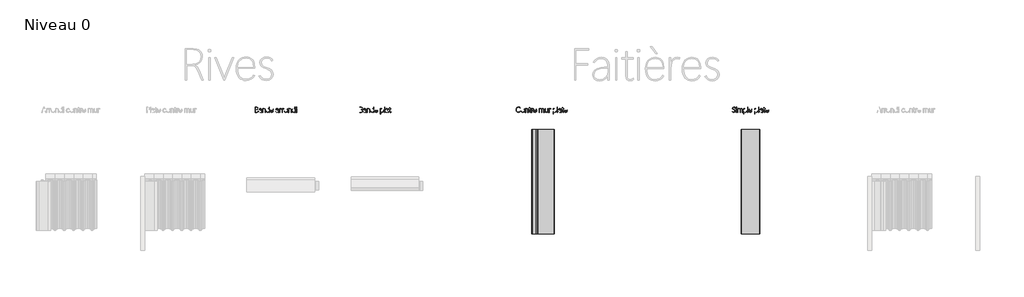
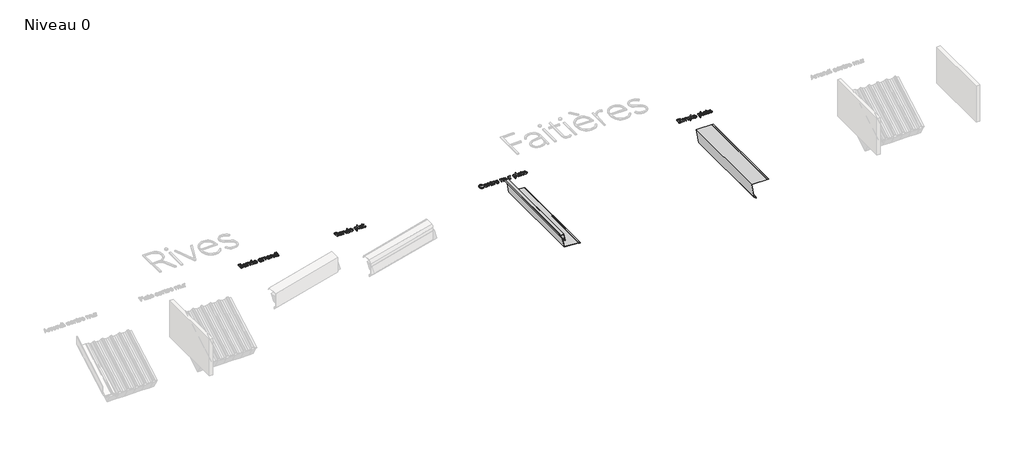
# One storey, part 13 of 26: 6 proxies.
"""IFC4 building model written with IfcOpenShell, lengths in millimetres."""

from ifc_helpers import new_model, si_unit, origin, origin_with_axes, place, context, project, spatial, polyline, outline, extrude, transform, mapped, element, save
from components import generic_models_2b05da81, generic_models_b33f6de4

model = new_model("IFC4")

# Units and contexts
model_context = context("Model", 3, world=origin())
ifc_project = project(units=[si_unit("LENGTHUNIT", "METRE", prefix="MILLI")], contexts=[model_context])

# Site, building, storey
site = spatial("IfcSite", under=ifc_project)
building = spatial("IfcBuilding", under=site)
storey = spatial("IfcBuildingStorey", under=building, Name="Niveau 0", Elevation=0.0)

# Proxies
placement = place(None, origin())
generic_models_shape = generic_models_2b05da81(model_context)
element("IfcBuildingElementProxy", 1, Name="Faitiere simple plate : Faitiere simple plate", ObjectType="Faitiere simple plate : Faitiere simple plate", at=placement, inside=storey, context=model_context, shape_type="MappedRepresentation", body=[
    mapped(generic_models_shape, transform((-2035.3118355, -8404.4337097, 0.0), x_axis=(0.0, -1.0, 0.0), y_axis=(1.0, 0.0, 0.0), z_axis=(0.0, 0.0, 1.0))),
])
generic_models_2_shape = generic_models_b33f6de4(model_context)
element("IfcBuildingElementProxy", 2, Name="Faitiere contre mur plate : Faitiere contre mur plate", ObjectType="Faitiere contre mur plate : Faitiere contre mur plate", at=placement, inside=storey, context=model_context, shape_type="MappedRepresentation", body=[
    mapped(generic_models_2_shape, transform((-3993.416243, -8404.4337097, 0.0), x_axis=(0.0, -1.0, 0.0), y_axis=(1.0, 0.0, 0.0), z_axis=(0.0, 0.0, 1.0))),
])
element("IfcBuildingElementProxy", 3, Name="0.5mm", ObjectType="0.5mm", at=placement, inside=storey, context=model_context, shape_type="SweptSolid", body=[
    extrude(outline(polyline([(-2130.3766746, -8231.5532262), (-2128.3087259, -8230.4076719), (-2123.4140847, -8236.1056888), (-2116.3919855, -8237.9356002), (-2107.9565401, -8234.9006251), (-2104.6091411, -8226.747849), (-2107.0787777, -8219.212482), (-2115.4100818, -8214.4294208), (-2125.1398548, -8209.0587051), (-2128.1748299, -8201.0844568), (-2124.515007, -8192.0316023), (-2114.9637619, -8188.4238501), (-2107.2647443, -8190.5141148), (-2102.4072965, -8195.9220238), (-2104.4603678, -8197.0378234), (-2108.5962652, -8192.3217102), (-2114.9935166, -8190.5810627), (-2122.6776569, -8193.3556846), (-2125.8688439, -8200.8761742), (-2123.2727501, -8207.6007269), (-2114.7554793, -8212.2424534), (-2105.144725, -8217.8512064), (-2102.2734005, -8226.5395664), (-2106.2605246, -8236.3139714), (-2116.3919855, -8240.0928129), (-2124.6860963, -8237.8984069), (-2130.3766746, -8231.5532262)])), origin_with_axes(), (0.0, 0.0, 1.0), 10.0),
    extrude(outline(polyline([(-2091.4873371, -8194.8359788), (-2093.131282, -8194.211131), (-2093.7933231, -8192.5746248), (-2093.131282, -8190.93068), (-2091.4873371, -8190.2983935), (-2089.806199, -8190.93068), (-2089.1962285, -8192.5746248), (-2089.806199, -8194.211131), (-2091.4873371, -8194.8359788)])), origin_with_axes(), (0.0, 0.0, 1.0), 10.0),
    extrude(outline(polyline([(-2090.3715375, -8239.2596825), (-2092.5436275, -8239.2596825), (-2092.5436275, -8203.5540934), (-2090.3715375, -8203.5540934), (-2090.3715375, -8239.2596825)])), origin_with_axes(), (0.0, 0.0, 1.0), 10.0),
    extrude(outline(polyline([(-2031.3978062, -8239.2596825), (-2033.5252642, -8239.2596825), (-2033.5252642, -8217.018076), (-2036.0023395, -8207.7420615), (-2042.8682267, -8204.7442797), (-2050.552367, -8208.262768), (-2053.6394127, -8217.2263586), (-2053.6394127, -8239.2596825), (-2055.7966254, -8239.2596825), (-2055.7966254, -8216.839548), (-2058.0802954, -8207.9131508), (-2064.871796, -8204.7442797), (-2072.8386055, -8208.1214334), (-2075.9256513, -8216.973444), (-2075.9256513, -8239.2596825), (-2078.0828639, -8239.2596825), (-2078.0828639, -8203.5540934), (-2075.9256513, -8203.5540934), (-2075.9256513, -8209.371129), (-2071.1946607, -8204.3723465), (-2064.693268, -8202.676331), (-2057.8422581, -8205.0120716), (-2054.3684019, -8211.2307951), (-2049.7713073, -8204.9302463), (-2042.8384721, -8202.676331), (-2034.3435173, -8206.2915219), (-2031.3978062, -8216.839548), (-2031.3978062, -8239.2596825)])), origin_with_axes(), (0.0, 0.0, 1.0), 10.0),
    extrude(outline(polyline([(-2018.6925675, -8233.1897323), (-2018.7967088, -8255.6842534), (-2020.9539214, -8255.6842534), (-2020.9539214, -8203.5540934), (-2018.7967088, -8203.5540934), (-2018.7967088, -8211.6771149), (-2013.5747664, -8205.1905996), (-2005.1244436, -8202.676331), (-1994.3978896, -8207.5784109), (-1990.4405201, -8220.320843), (-1994.7698228, -8234.9303798), (-2006.3146299, -8240.0928129), (-2013.9764542, -8238.1587601), (-2018.6925675, -8233.1897323)]), holes=[polyline([(-2018.7967088, -8219.7257498), (-2018.7967088, -8226.0783692), (-2015.2930978, -8234.5361306), (-2006.2699979, -8238.0397415), (-1996.406329, -8233.5616656), (-1992.6721194, -8220.3654749), (-1996.0939051, -8209.0140731), (-2005.2285849, -8204.7442797), (-2015.2038339, -8209.1554077), (-2018.7967088, -8219.7257498)])]), origin_with_axes(), (0.0, 0.0, 1.0), 10.0),
    extrude(outline(polyline([(-1981.9158107, -8239.2596825), (-1981.9158107, -8186.4005333), (-1979.7585981, -8186.4005333), (-1979.7585981, -8239.2596825), (-1981.9158107, -8239.2596825)])), origin_with_axes(), (0.0, 0.0, 1.0), 10.0),
    extrude(outline(polyline([(-1941.7023911, -8220.4770549), (-1968.9725347, -8220.7374082), (-1965.3945371, -8233.7476322), (-1955.5383068, -8238.0694962), (-1948.7839996, -8236.3957967), (-1944.008377, -8231.3746982), (-1942.1189563, -8232.3863566), (-1947.5938133, -8238.1661988), (-1955.5383068, -8240.1374449), (-1966.9120247, -8235.3543837), (-1971.159502, -8220.6332669), (-1966.7558127, -8207.5932882), (-1955.5383068, -8202.676331), (-1945.3324593, -8207.176723), (-1941.7023911, -8220.4770549)]), holes=[polyline([(-1943.9042357, -8218.7289688), (-1947.1623707, -8208.2776453), (-1955.6126935, -8204.7442797), (-1964.71018, -8208.3669093), (-1968.8683934, -8218.7289688), (-1943.9042357, -8218.7289688)])]), origin_with_axes(), (0.0, 0.0, 1.0), 10.0),
    extrude(outline(polyline([(-1913.9561729, -8233.1897323), (-1914.0603142, -8255.6842534), (-1916.2175269, -8255.6842534), (-1916.2175269, -8203.5540934), (-1914.0603142, -8203.5540934), (-1914.0603142, -8211.6771149), (-1908.8383718, -8205.1905996), (-1900.3880491, -8202.676331), (-1889.661495, -8207.5784109), (-1885.7041256, -8220.320843), (-1890.0334282, -8234.9303798), (-1901.5782354, -8240.0928129), (-1909.2400597, -8238.1587601), (-1913.9561729, -8233.1897323)]), holes=[polyline([(-1914.0603142, -8219.7257498), (-1914.0603142, -8226.0783692), (-1910.5567033, -8234.5361306), (-1901.5336034, -8238.0397415), (-1891.6699344, -8233.5616656), (-1887.9357249, -8220.3654749), (-1891.3575105, -8209.0140731), (-1900.4921904, -8204.7442797), (-1910.4674393, -8209.1554077), (-1914.0603142, -8219.7257498)])]), origin_with_axes(), (0.0, 0.0, 1.0), 10.0),
    extrude(outline(polyline([(-1877.1794162, -8239.2596825), (-1877.1794162, -8186.4005333), (-1875.0222035, -8186.4005333), (-1875.0222035, -8239.2596825), (-1877.1794162, -8239.2596825)])), origin_with_axes(), (0.0, 0.0, 1.0), 10.0),
    extrude(outline(polyline([(-1840.0307262, -8239.2596825), (-1842.2028162, -8239.2596825), (-1842.2028162, -8232.3863566), (-1847.4470746, -8237.9356002), (-1854.997319, -8240.0928129), (-1863.0310765, -8237.3033137), (-1865.8726463, -8230.1547573), (-1862.7707233, -8222.8871822), (-1853.0335116, -8219.145534), (-1842.1581842, -8217.6131691), (-1842.1581842, -8215.5154658), (-1844.8956127, -8207.4817082), (-1852.3045225, -8204.7442797), (-1858.5306846, -8206.4179792), (-1863.0161992, -8211.364691), (-1864.9948839, -8210.2488914), (-1859.5795362, -8204.6178224), (-1852.3045225, -8202.676331), (-1843.3632479, -8206.0088527), (-1840.0307262, -8215.5452204), (-1840.0307262, -8239.2596825)]), holes=[polyline([(-1842.2028162, -8225.3493801), (-1842.2028162, -8219.6662405), (-1852.7657197, -8221.094464), (-1861.0077598, -8224.0699298), (-1863.641047, -8230.095248), (-1861.2532357, -8235.9494768), (-1854.818791, -8238.1141282), (-1845.9444644, -8234.4319893), (-1842.2028162, -8225.3493801)])]), origin_with_axes(), (0.0, 0.0, 1.0), 10.0),
    extrude(outline(polyline([(-1814.9326726, -8237.519035), (-1817.870945, -8239.3861398), (-1821.106764, -8239.9589169), (-1826.1427398, -8238.0025482), (-1827.8313166, -8232.1483193), (-1827.8313166, -8205.5476555), (-1834.3773413, -8205.5476555), (-1834.3773413, -8203.5540934), (-1827.8313166, -8203.5540934), (-1827.8313166, -8193.9582164), (-1825.674104, -8193.5862831), (-1825.674104, -8203.5540934), (-1815.944331, -8203.5540934), (-1815.944331, -8205.5476555), (-1825.674104, -8205.5476555), (-1825.674104, -8231.999546), (-1824.4839177, -8236.4850607), (-1820.9579907, -8237.9653549), (-1818.5032315, -8237.496719), (-1816.1823682, -8235.9420382), (-1814.9326726, -8237.519035)])), origin_with_axes(), (0.0, 0.0, 1.0), 10.0),
    extrude(outline(polyline([(-1781.7413521, -8220.4770549), (-1809.0114957, -8220.7374082), (-1805.4334982, -8233.7476322), (-1795.5772679, -8238.0694962), (-1788.8229606, -8236.3957967), (-1784.0473381, -8231.3746982), (-1782.1579173, -8232.3863566), (-1787.6327743, -8238.1661988), (-1795.5772679, -8240.1374449), (-1806.9509857, -8235.3543837), (-1811.1984631, -8220.6332669), (-1806.7947738, -8207.5932882), (-1795.5772679, -8202.676331), (-1785.3714203, -8207.176723), (-1781.7413521, -8220.4770549)]), holes=[polyline([(-1783.9431968, -8218.7289688), (-1787.2013318, -8208.2776453), (-1795.6516545, -8204.7442797), (-1804.7491411, -8208.3669093), (-1808.9073544, -8218.7289688), (-1783.9431968, -8218.7289688)])]), origin_with_axes(), (0.0, 0.0, 1.0), 10.0),
])
element("IfcBuildingElementProxy", 4, Name="0.5mm", ObjectType="0.5mm", at=placement, inside=storey, context=model_context, shape_type="SweptSolid", body=[
    extrude(outline(polyline([(-4160.399124, -8230.1250026), (-4167.9270524, -8237.4818417), (-4178.6238518, -8240.0928129), (-4187.7473736, -8238.3317091), (-4195.0335454, -8233.0483977), (-4199.8091679, -8224.9235165), (-4201.4010421, -8214.6377034), (-4199.7663956, -8204.0097116), (-4194.8624561, -8195.6319159), (-4187.4144934, -8190.1923925), (-4178.1477772, -8188.3792181), (-4168.224599, -8190.662888), (-4160.7413026, -8197.6924259), (-4162.7348646, -8198.8826122), (-4169.22138, -8192.7233981), (-4178.1775319, -8190.6108174), (-4186.4790814, -8192.2714992), (-4193.1738793, -8197.2535447), (-4197.592446, -8204.9135093), (-4199.0653015, -8214.6079487), (-4197.6352183, -8224.0383155), (-4193.3449686, -8231.4714009), (-4186.8156809, -8236.2972344), (-4178.6684838, -8237.9058456), (-4169.2734506, -8235.6519303), (-4162.4224407, -8228.9794483), (-4160.399124, -8230.1250026)])), origin_with_axes(), (0.0, 0.0, 1.0), 10.0),
    extrude(outline(polyline([(-4136.6251526, -8240.0928129), (-4148.8468782, -8234.9303798), (-4153.4960435, -8221.4812746), (-4148.6906663, -8207.9131508), (-4136.4912567, -8202.676331), (-4124.3513564, -8207.9280281), (-4119.7542618, -8221.406888), (-4124.4108657, -8234.8783092), (-4136.6251526, -8240.0928129)]), holes=[polyline([(-4136.550766, -8238.0397415), (-4125.9581079, -8233.4054536), (-4121.9858611, -8221.3771333), (-4125.9432306, -8209.3636903), (-4136.4912567, -8204.7442797), (-4147.1731787, -8209.4455156), (-4151.2644442, -8221.5110293), (-4147.2401267, -8233.4575243), (-4136.550766, -8238.0397415)])]), origin_with_axes(), (0.0, 0.0, 1.0), 10.0),
    extrude(outline(polyline([(-4085.417387, -8239.2596825), (-4087.544845, -8239.2596825), (-4087.544845, -8217.018076), (-4090.2673962, -8207.9652214), (-4097.8399565, -8204.7442797), (-4106.4092979, -8208.19582), (-4109.7269422, -8217.018076), (-4109.7269422, -8239.2596825), (-4111.8841549, -8239.2596825), (-4111.8841549, -8203.5540934), (-4109.7269422, -8203.5540934), (-4109.7269422, -8209.6537982), (-4104.8248624, -8204.4764878), (-4097.7209379, -8202.676331), (-4088.6457674, -8206.4626112), (-4085.417387, -8216.8097934), (-4085.417387, -8239.2596825)])), origin_with_axes(), (0.0, 0.0, 1.0), 10.0),
    extrude(outline(polyline([(-4061.0631998, -8237.519035), (-4064.0014722, -8239.3861398), (-4067.2372912, -8239.9589169), (-4072.273267, -8238.0025482), (-4073.9618439, -8232.1483193), (-4073.9618439, -8205.5476555), (-4080.5078685, -8205.5476555), (-4080.5078685, -8203.5540934), (-4073.9618439, -8203.5540934), (-4073.9618439, -8193.9582164), (-4071.8046312, -8193.5862831), (-4071.8046312, -8203.5540934), (-4062.0748582, -8203.5540934), (-4062.0748582, -8205.5476555), (-4071.8046312, -8205.5476555), (-4071.8046312, -8231.999546), (-4070.6144449, -8236.4850607), (-4067.088518, -8237.9653549), (-4064.6337587, -8237.496719), (-4062.3128954, -8235.9420382), (-4061.0631998, -8237.519035)])), origin_with_axes(), (0.0, 0.0, 1.0), 10.0),
    extrude(outline(polyline([(-4038.9554893, -8205.5476555), (-4040.6812594, -8204.960001), (-4042.4070295, -8204.803789), (-4049.7489913, -8209.0066344), (-4052.6277544, -8221.1242187), (-4052.6277544, -8239.2596825), (-4054.7552124, -8239.2596825), (-4054.7552124, -8203.5540934), (-4052.6277544, -8203.5540934), (-4052.6277544, -8211.4390777), (-4048.6183143, -8205.071581), (-4042.3028882, -8202.8251043), (-4040.2498169, -8202.9961936), (-4038.1223588, -8203.6582347), (-4038.9554893, -8205.5476555)])), origin_with_axes(), (0.0, 0.0, 1.0), 10.0),
    extrude(outline(polyline([(-4005.0203023, -8220.4770549), (-4032.290446, -8220.7374082), (-4028.7124484, -8233.7476322), (-4018.8562181, -8238.0694962), (-4012.1019108, -8236.3957967), (-4007.3262883, -8231.3746982), (-4005.4368675, -8232.3863566), (-4010.9117245, -8238.1661988), (-4018.8562181, -8240.1374449), (-4030.2299359, -8235.3543837), (-4034.4774133, -8220.6332669), (-4030.073724, -8207.5932882), (-4018.8562181, -8202.676331), (-4008.6503705, -8207.176723), (-4005.0203023, -8220.4770549)]), holes=[polyline([(-4007.222147, -8218.7289688), (-4010.480282, -8208.2776453), (-4018.9306047, -8204.7442797), (-4028.0280913, -8208.3669093), (-4032.1863047, -8218.7289688), (-4007.222147, -8218.7289688)])]), origin_with_axes(), (0.0, 0.0, 1.0), 10.0),
    extrude(outline(polyline([(-3932.8503804, -8239.2596825), (-3934.9778385, -8239.2596825), (-3934.9778385, -8217.018076), (-3937.4549137, -8207.7420615), (-3944.3208009, -8204.7442797), (-3952.0049412, -8208.262768), (-3955.091987, -8217.2263586), (-3955.091987, -8239.2596825), (-3957.2491996, -8239.2596825), (-3957.2491996, -8216.839548), (-3959.5328696, -8207.9131508), (-3966.3243702, -8204.7442797), (-3974.2911797, -8208.1214334), (-3977.3782255, -8216.973444), (-3977.3782255, -8239.2596825), (-3979.5354381, -8239.2596825), (-3979.5354381, -8203.5540934), (-3977.3782255, -8203.5540934), (-3977.3782255, -8209.371129), (-3972.6472349, -8204.3723465), (-3966.1458422, -8202.676331), (-3959.2948323, -8205.0120716), (-3955.8209761, -8211.2307951), (-3951.2238815, -8204.9302463), (-3944.2910463, -8202.676331), (-3935.7960915, -8206.2915219), (-3932.8503804, -8216.839548), (-3932.8503804, -8239.2596825)])), origin_with_axes(), (0.0, 0.0, 1.0), 10.0),
    extrude(outline(polyline([(-3896.6687169, -8239.2299278), (-3898.7961749, -8239.2299278), (-3898.7961749, -8233.1153457), (-3903.7503254, -8238.3000948), (-3910.6534059, -8240.0928129), (-3919.7880858, -8236.366042), (-3923.1354848, -8226.0486145), (-3923.1354848, -8203.5243388), (-3920.9782721, -8203.5243388), (-3920.9782721, -8225.8403319), (-3918.1738956, -8234.7816065), (-3910.474878, -8238.0397415), (-3902.1138192, -8234.5733239), (-3898.7961749, -8225.7659453), (-3898.7961749, -8203.5243388), (-3896.6687169, -8203.5243388), (-3896.6687169, -8239.2299278)])), origin_with_axes(), (0.0, 0.0, 1.0), 10.0),
    extrude(outline(polyline([(-3870.4251089, -8205.5476555), (-3872.1508791, -8204.960001), (-3873.8766492, -8204.803789), (-3881.2186109, -8209.0066344), (-3884.0973741, -8221.1242187), (-3884.0973741, -8239.2596825), (-3886.2248321, -8239.2596825), (-3886.2248321, -8203.5540934), (-3884.0973741, -8203.5540934), (-3884.0973741, -8211.4390777), (-3880.087934, -8205.071581), (-3873.7725079, -8202.8251043), (-3871.7194365, -8202.9961936), (-3869.5919785, -8203.6582347), (-3870.4251089, -8205.5476555)])), origin_with_axes(), (0.0, 0.0, 1.0), 10.0),
    extrude(outline(polyline([(-3843.9732184, -8233.1897323), (-3844.0773597, -8255.6842534), (-3846.2345723, -8255.6842534), (-3846.2345723, -8203.5540934), (-3844.0773597, -8203.5540934), (-3844.0773597, -8211.6771149), (-3838.8554173, -8205.1905996), (-3830.4050945, -8202.676331), (-3819.6785405, -8207.5784109), (-3815.721171, -8220.320843), (-3820.0504737, -8234.9303798), (-3831.5952808, -8240.0928129), (-3839.2571051, -8238.1587601), (-3843.9732184, -8233.1897323)]), holes=[polyline([(-3844.0773597, -8219.7257498), (-3844.0773597, -8226.0783692), (-3840.5737487, -8234.5361306), (-3831.5506488, -8238.0397415), (-3821.6869799, -8233.5616656), (-3817.9527703, -8220.3654749), (-3821.374556, -8209.0140731), (-3830.5092358, -8204.7442797), (-3840.4844848, -8209.1554077), (-3844.0773597, -8219.7257498)])]), origin_with_axes(), (0.0, 0.0, 1.0), 10.0),
    extrude(outline(polyline([(-3807.1964616, -8239.2596825), (-3807.1964616, -8186.4005333), (-3805.039249, -8186.4005333), (-3805.039249, -8239.2596825), (-3807.1964616, -8239.2596825)])), origin_with_axes(), (0.0, 0.0, 1.0), 10.0),
    extrude(outline(polyline([(-3770.0477717, -8239.2596825), (-3772.2198617, -8239.2596825), (-3772.2198617, -8232.3863566), (-3777.4641201, -8237.9356002), (-3785.0143644, -8240.0928129), (-3793.048122, -8237.3033137), (-3795.8896918, -8230.1547573), (-3792.7877687, -8222.8871822), (-3783.050557, -8219.145534), (-3772.1752297, -8217.6131691), (-3772.1752297, -8215.5154658), (-3774.9126582, -8207.4817082), (-3782.3215679, -8204.7442797), (-3788.54773, -8206.4179792), (-3793.0332446, -8211.364691), (-3795.0119294, -8210.2488914), (-3789.5965817, -8204.6178224), (-3782.3215679, -8202.676331), (-3773.3802933, -8206.0088527), (-3770.0477717, -8215.5452204), (-3770.0477717, -8239.2596825)]), holes=[polyline([(-3772.2198617, -8225.3493801), (-3772.2198617, -8219.6662405), (-3782.7827651, -8221.094464), (-3791.0248053, -8224.0699298), (-3793.6580925, -8230.095248), (-3791.2702812, -8235.9494768), (-3784.8358365, -8238.1141282), (-3775.9615099, -8234.4319893), (-3772.2198617, -8225.3493801)])]), origin_with_axes(), (0.0, 0.0, 1.0), 10.0),
    extrude(outline(polyline([(-3744.9497181, -8237.519035), (-3747.8879905, -8239.3861398), (-3751.1238095, -8239.9589169), (-3756.1597853, -8238.0025482), (-3757.8483621, -8232.1483193), (-3757.8483621, -8205.5476555), (-3764.3943868, -8205.5476555), (-3764.3943868, -8203.5540934), (-3757.8483621, -8203.5540934), (-3757.8483621, -8193.9582164), (-3755.6911494, -8193.5862831), (-3755.6911494, -8203.5540934), (-3745.9613764, -8203.5540934), (-3745.9613764, -8205.5476555), (-3755.6911494, -8205.5476555), (-3755.6911494, -8231.999546), (-3754.5009631, -8236.4850607), (-3750.9750362, -8237.9653549), (-3748.520277, -8237.496719), (-3746.1994137, -8235.9420382), (-3744.9497181, -8237.519035)])), origin_with_axes(), (0.0, 0.0, 1.0), 10.0),
    extrude(outline(polyline([(-3711.7583976, -8220.4770549), (-3739.0285412, -8220.7374082), (-3735.4505436, -8233.7476322), (-3725.5943133, -8238.0694962), (-3718.8400061, -8236.3957967), (-3714.0643835, -8231.3746982), (-3712.1749628, -8232.3863566), (-3717.6498198, -8238.1661988), (-3725.5943133, -8240.1374449), (-3736.9680312, -8235.3543837), (-3741.2155085, -8220.6332669), (-3736.8118192, -8207.5932882), (-3725.5943133, -8202.676331), (-3715.3884658, -8207.176723), (-3711.7583976, -8220.4770549)]), holes=[polyline([(-3713.9602422, -8218.7289688), (-3717.2183772, -8208.2776453), (-3725.6687, -8204.7442797), (-3734.7661865, -8208.3669093), (-3738.9243999, -8218.7289688), (-3713.9602422, -8218.7289688)])]), origin_with_axes(), (0.0, 0.0, 1.0), 10.0),
])
element("IfcBuildingElementProxy", 5, Name="0.5mm", ObjectType="0.5mm", at=placement, inside=storey, context=model_context, shape_type="SweptSolid", body=[
    extrude(outline(polyline([(-5698.7826323, -8239.2596825), (-5698.7826323, -8189.2569805), (-5686.3303081, -8189.2569805), (-5676.9278363, -8192.4481675), (-5673.3721547, -8201.0398249), (-5675.8641073, -8208.4487346), (-5682.5068346, -8213.0011972), (-5674.6367277, -8217.0627079), (-5671.482734, -8225.6915586), (-5675.4772967, -8235.4957183), (-5686.0625162, -8239.2596825), (-5698.7826323, -8239.2596825)]), holes=[polyline([(-5696.4766463, -8191.4141931), (-5696.4766463, -8212.2722081), (-5688.8892086, -8212.2722081), (-5679.3454022, -8209.237233), (-5675.73765, -8201.1885981), (-5678.6312904, -8193.9954097), (-5686.7617506, -8191.4141931), (-5696.4766463, -8191.4141931)]), polyline([(-5696.4766463, -8214.3996661), (-5696.4766463, -8237.0578378), (-5686.4046947, -8237.0578378), (-5677.1956282, -8234.0600561), (-5673.8482292, -8225.8700866), (-5677.753528, -8217.2561132), (-5688.6660487, -8214.3996661), (-5696.4766463, -8214.3996661)])]), origin_with_axes(), (0.0, 0.0, 1.0), 10.0),
    extrude(outline(polyline([(-5638.5294507, -8239.2596825), (-5640.7015407, -8239.2596825), (-5640.7015407, -8232.3863566), (-5645.9457991, -8237.9356002), (-5653.4960435, -8240.0928129), (-5661.529801, -8237.3033137), (-5664.3713708, -8230.1547573), (-5661.2694478, -8222.8871822), (-5651.5322361, -8219.145534), (-5640.6569087, -8217.6131691), (-5640.6569087, -8215.5154658), (-5643.3943372, -8207.4817082), (-5650.803247, -8204.7442797), (-5657.0294091, -8206.4179792), (-5661.5149237, -8211.364691), (-5663.4936084, -8210.2488914), (-5658.0782607, -8204.6178224), (-5650.803247, -8202.676331), (-5641.8619724, -8206.0088527), (-5638.5294507, -8215.5452204), (-5638.5294507, -8239.2596825)]), holes=[polyline([(-5640.7015407, -8225.3493801), (-5640.7015407, -8219.6662405), (-5651.2644442, -8221.094464), (-5659.5064843, -8224.0699298), (-5662.1397715, -8230.095248), (-5659.7519602, -8235.9494768), (-5653.3175155, -8238.1141282), (-5644.4431889, -8234.4319893), (-5640.7015407, -8225.3493801)])]), origin_with_axes(), (0.0, 0.0, 1.0), 10.0),
    extrude(outline(polyline([(-5601.6039207, -8239.2596825), (-5603.7313787, -8239.2596825), (-5603.7313787, -8217.018076), (-5606.4539299, -8207.9652214), (-5614.0264902, -8204.7442797), (-5622.5958316, -8208.19582), (-5625.9134759, -8217.018076), (-5625.9134759, -8239.2596825), (-5628.0706886, -8239.2596825), (-5628.0706886, -8203.5540934), (-5625.9134759, -8203.5540934), (-5625.9134759, -8209.6537982), (-5621.0113961, -8204.4764878), (-5613.9074716, -8202.676331), (-5604.8323011, -8206.4626112), (-5601.6039207, -8216.8097934), (-5601.6039207, -8239.2596825)])), origin_with_axes(), (0.0, 0.0, 1.0), 10.0),
    extrude(outline(polyline([(-5566.2033169, -8231.5532262), (-5571.4178206, -8237.8314589), (-5579.3325595, -8240.0928129), (-5590.3194668, -8235.1237851), (-5594.4628029, -8221.9275945), (-5589.739251, -8207.8387641), (-5578.0084773, -8202.676331), (-5570.9863781, -8204.4021012), (-5566.2553875, -8209.3116197), (-5566.1512462, -8186.4005333), (-5563.9940336, -8186.4005333), (-5563.9940336, -8239.2596825), (-5566.1512462, -8239.2596825), (-5566.2033169, -8231.5532262)]), holes=[polyline([(-5592.2312036, -8221.7936985), (-5588.6234514, -8233.7699482), (-5579.2730502, -8238.0397415), (-5569.7292438, -8233.9410374), (-5566.1512462, -8223.6087326), (-5566.1512462, -8216.1403136), (-5569.5358385, -8208.0172921), (-5578.0531093, -8204.7442797), (-5588.2068862, -8209.3413743), (-5592.2312036, -8221.7936985)])]), origin_with_axes(), (0.0, 0.0, 1.0), 10.0),
    extrude(outline(polyline([(-5525.9675812, -8220.4770549), (-5553.2377249, -8220.7374082), (-5549.6597273, -8233.7476322), (-5539.803497, -8238.0694962), (-5533.0491897, -8236.3957967), (-5528.2735672, -8231.3746982), (-5526.3841464, -8232.3863566), (-5531.8590034, -8238.1661988), (-5539.803497, -8240.1374449), (-5551.1772148, -8235.3543837), (-5555.4246922, -8220.6332669), (-5551.0210029, -8207.5932882), (-5539.803497, -8202.676331), (-5529.5976495, -8207.176723), (-5525.9675812, -8220.4770549)]), holes=[polyline([(-5528.1694259, -8218.7289688), (-5531.4275609, -8208.2776453), (-5539.8778836, -8204.7442797), (-5548.9753702, -8208.3669093), (-5553.1335836, -8218.7289688), (-5528.1694259, -8218.7289688)])]), origin_with_axes(), (0.0, 0.0, 1.0), 10.0),
    extrude(outline(polyline([(-5498.2213631, -8233.1897323), (-5498.3255044, -8255.6842534), (-5500.482717, -8255.6842534), (-5500.482717, -8203.5540934), (-5498.3255044, -8203.5540934), (-5498.3255044, -8211.6771149), (-5493.103562, -8205.1905996), (-5484.6532392, -8202.676331), (-5473.9266852, -8207.5784109), (-5469.9693157, -8220.320843), (-5474.2986184, -8234.9303798), (-5485.8434255, -8240.0928129), (-5493.5052499, -8238.1587601), (-5498.2213631, -8233.1897323)]), holes=[polyline([(-5498.3255044, -8219.7257498), (-5498.3255044, -8226.0783692), (-5494.8218934, -8234.5361306), (-5485.7987935, -8238.0397415), (-5475.9351246, -8233.5616656), (-5472.200915, -8220.3654749), (-5475.6227007, -8209.0140731), (-5484.7573805, -8204.7442797), (-5494.7326295, -8209.1554077), (-5498.3255044, -8219.7257498)])]), origin_with_axes(), (0.0, 0.0, 1.0), 10.0),
    extrude(outline(polyline([(-5461.4446063, -8239.2596825), (-5461.4446063, -8186.4005333), (-5459.2873937, -8186.4005333), (-5459.2873937, -8239.2596825), (-5461.4446063, -8239.2596825)])), origin_with_axes(), (0.0, 0.0, 1.0), 10.0),
    extrude(outline(polyline([(-5424.2959164, -8239.2596825), (-5426.4680064, -8239.2596825), (-5426.4680064, -8232.3863566), (-5431.7122648, -8237.9356002), (-5439.2625091, -8240.0928129), (-5447.2962667, -8237.3033137), (-5450.1378365, -8230.1547573), (-5447.0359134, -8222.8871822), (-5437.2987017, -8219.145534), (-5426.4233744, -8217.6131691), (-5426.4233744, -8215.5154658), (-5429.1608029, -8207.4817082), (-5436.5697126, -8204.7442797), (-5442.7958747, -8206.4179792), (-5447.2813894, -8211.364691), (-5449.2600741, -8210.2488914), (-5443.8447264, -8204.6178224), (-5436.5697126, -8202.676331), (-5427.628438, -8206.0088527), (-5424.2959164, -8215.5452204), (-5424.2959164, -8239.2596825)]), holes=[polyline([(-5426.4680064, -8225.3493801), (-5426.4680064, -8219.6662405), (-5437.0309098, -8221.094464), (-5445.27295, -8224.0699298), (-5447.9062372, -8230.095248), (-5445.5184259, -8235.9494768), (-5439.0839812, -8238.1141282), (-5430.2096546, -8234.4319893), (-5426.4680064, -8225.3493801)])]), origin_with_axes(), (0.0, 0.0, 1.0), 10.0),
    extrude(outline(polyline([(-5399.1978628, -8237.519035), (-5402.1361352, -8239.3861398), (-5405.3719542, -8239.9589169), (-5410.40793, -8238.0025482), (-5412.0965068, -8232.1483193), (-5412.0965068, -8205.5476555), (-5418.6425315, -8205.5476555), (-5418.6425315, -8203.5540934), (-5412.0965068, -8203.5540934), (-5412.0965068, -8193.9582164), (-5409.9392941, -8193.5862831), (-5409.9392941, -8203.5540934), (-5400.2095211, -8203.5540934), (-5400.2095211, -8205.5476555), (-5409.9392941, -8205.5476555), (-5409.9392941, -8231.999546), (-5408.7491078, -8236.4850607), (-5405.2231809, -8237.9653549), (-5402.7684217, -8237.496719), (-5400.4475584, -8235.9420382), (-5399.1978628, -8237.519035)])), origin_with_axes(), (0.0, 0.0, 1.0), 10.0),
])
element("IfcBuildingElementProxy", 6, Name="0.5mm", ObjectType="0.5mm", at=placement, inside=storey, context=model_context, shape_type="SweptSolid", body=[
    extrude(outline(polyline([(-6698.7826323, -8239.2596825), (-6698.7826323, -8189.2569805), (-6686.3303081, -8189.2569805), (-6676.9278363, -8192.4481675), (-6673.3721547, -8201.0398249), (-6675.8641073, -8208.4487346), (-6682.5068346, -8213.0011972), (-6674.6367277, -8217.0627079), (-6671.482734, -8225.6915586), (-6675.4772967, -8235.4957183), (-6686.0625162, -8239.2596825), (-6698.7826323, -8239.2596825)]), holes=[polyline([(-6696.4766463, -8191.4141931), (-6696.4766463, -8212.2722081), (-6688.8892086, -8212.2722081), (-6679.3454022, -8209.237233), (-6675.73765, -8201.1885981), (-6678.6312904, -8193.9954097), (-6686.7617506, -8191.4141931), (-6696.4766463, -8191.4141931)]), polyline([(-6696.4766463, -8214.3996661), (-6696.4766463, -8237.0578378), (-6686.4046947, -8237.0578378), (-6677.1956282, -8234.0600561), (-6673.8482292, -8225.8700866), (-6677.753528, -8217.2561132), (-6688.6660487, -8214.3996661), (-6696.4766463, -8214.3996661)])]), origin_with_axes(), (0.0, 0.0, 1.0), 10.0),
    extrude(outline(polyline([(-6638.5294507, -8239.2596825), (-6640.7015407, -8239.2596825), (-6640.7015407, -8232.3863566), (-6645.9457991, -8237.9356002), (-6653.4960435, -8240.0928129), (-6661.529801, -8237.3033137), (-6664.3713708, -8230.1547573), (-6661.2694478, -8222.8871822), (-6651.5322361, -8219.145534), (-6640.6569087, -8217.6131691), (-6640.6569087, -8215.5154658), (-6643.3943372, -8207.4817082), (-6650.803247, -8204.7442797), (-6657.0294091, -8206.4179792), (-6661.5149237, -8211.364691), (-6663.4936084, -8210.2488914), (-6658.0782607, -8204.6178224), (-6650.803247, -8202.676331), (-6641.8619724, -8206.0088527), (-6638.5294507, -8215.5452204), (-6638.5294507, -8239.2596825)]), holes=[polyline([(-6640.7015407, -8225.3493801), (-6640.7015407, -8219.6662405), (-6651.2644442, -8221.094464), (-6659.5064843, -8224.0699298), (-6662.1397715, -8230.095248), (-6659.7519602, -8235.9494768), (-6653.3175155, -8238.1141282), (-6644.4431889, -8234.4319893), (-6640.7015407, -8225.3493801)])]), origin_with_axes(), (0.0, 0.0, 1.0), 10.0),
    extrude(outline(polyline([(-6601.6039207, -8239.2596825), (-6603.7313787, -8239.2596825), (-6603.7313787, -8217.018076), (-6606.4539299, -8207.9652214), (-6614.0264902, -8204.7442797), (-6622.5958316, -8208.19582), (-6625.9134759, -8217.018076), (-6625.9134759, -8239.2596825), (-6628.0706886, -8239.2596825), (-6628.0706886, -8203.5540934), (-6625.9134759, -8203.5540934), (-6625.9134759, -8209.6537982), (-6621.0113961, -8204.4764878), (-6613.9074716, -8202.676331), (-6604.8323011, -8206.4626112), (-6601.6039207, -8216.8097934), (-6601.6039207, -8239.2596825)])), origin_with_axes(), (0.0, 0.0, 1.0), 10.0),
    extrude(outline(polyline([(-6566.2033169, -8231.5532262), (-6571.4178206, -8237.8314589), (-6579.3325595, -8240.0928129), (-6590.3194668, -8235.1237851), (-6594.4628029, -8221.9275945), (-6589.739251, -8207.8387641), (-6578.0084773, -8202.676331), (-6570.9863781, -8204.4021012), (-6566.2553875, -8209.3116197), (-6566.1512462, -8186.4005333), (-6563.9940336, -8186.4005333), (-6563.9940336, -8239.2596825), (-6566.1512462, -8239.2596825), (-6566.2033169, -8231.5532262)]), holes=[polyline([(-6592.2312036, -8221.7936985), (-6588.6234514, -8233.7699482), (-6579.2730502, -8238.0397415), (-6569.7292438, -8233.9410374), (-6566.1512462, -8223.6087326), (-6566.1512462, -8216.1403136), (-6569.5358385, -8208.0172921), (-6578.0531093, -8204.7442797), (-6588.2068862, -8209.3413743), (-6592.2312036, -8221.7936985)])]), origin_with_axes(), (0.0, 0.0, 1.0), 10.0),
    extrude(outline(polyline([(-6525.9675812, -8220.4770549), (-6553.2377249, -8220.7374082), (-6549.6597273, -8233.7476322), (-6539.803497, -8238.0694962), (-6533.0491897, -8236.3957967), (-6528.2735672, -8231.3746982), (-6526.3841464, -8232.3863566), (-6531.8590034, -8238.1661988), (-6539.803497, -8240.1374449), (-6551.1772148, -8235.3543837), (-6555.4246922, -8220.6332669), (-6551.0210029, -8207.5932882), (-6539.803497, -8202.676331), (-6529.5976495, -8207.176723), (-6525.9675812, -8220.4770549)]), holes=[polyline([(-6528.1694259, -8218.7289688), (-6531.4275609, -8208.2776453), (-6539.8778836, -8204.7442797), (-6548.9753702, -8208.3669093), (-6553.1335836, -8218.7289688), (-6528.1694259, -8218.7289688)])]), origin_with_axes(), (0.0, 0.0, 1.0), 10.0),
    extrude(outline(polyline([(-6476.6641137, -8239.2596825), (-6478.8362037, -8239.2596825), (-6478.8362037, -8232.3863566), (-6484.0804621, -8237.9356002), (-6491.6307064, -8240.0928129), (-6499.664464, -8237.3033137), (-6502.5060338, -8230.1547573), (-6499.4041107, -8222.8871822), (-6489.666899, -8219.145534), (-6478.7915717, -8217.6131691), (-6478.7915717, -8215.5154658), (-6481.5290002, -8207.4817082), (-6488.9379099, -8204.7442797), (-6495.164072, -8206.4179792), (-6499.6495866, -8211.364691), (-6501.6282714, -8210.2488914), (-6496.2129237, -8204.6178224), (-6488.9379099, -8202.676331), (-6479.9966353, -8206.0088527), (-6476.6641137, -8215.5452204), (-6476.6641137, -8239.2596825)]), holes=[polyline([(-6478.8362037, -8225.3493801), (-6478.8362037, -8219.6662405), (-6489.3991071, -8221.094464), (-6497.6411473, -8224.0699298), (-6500.2744344, -8230.095248), (-6497.8866232, -8235.9494768), (-6491.4521785, -8238.1141282), (-6482.5778519, -8234.4319893), (-6478.8362037, -8225.3493801)])]), origin_with_axes(), (0.0, 0.0, 1.0), 10.0),
    extrude(outline(polyline([(-6450.4056284, -8205.5476555), (-6452.1313985, -8204.960001), (-6453.8571687, -8204.803789), (-6461.1991304, -8209.0066344), (-6464.0778935, -8221.1242187), (-6464.0778935, -8239.2596825), (-6466.2053516, -8239.2596825), (-6466.2053516, -8203.5540934), (-6464.0778935, -8203.5540934), (-6464.0778935, -8211.4390777), (-6460.0684534, -8205.071581), (-6453.7530274, -8202.8251043), (-6451.699956, -8202.9961936), (-6449.572498, -8203.6582347), (-6450.4056284, -8205.5476555)])), origin_with_axes(), (0.0, 0.0, 1.0), 10.0),
    extrude(outline(polyline([(-6427.5540514, -8205.5476555), (-6429.2798215, -8204.960001), (-6431.0055917, -8204.803789), (-6438.3475534, -8209.0066344), (-6441.2263165, -8221.1242187), (-6441.2263165, -8239.2596825), (-6443.3537746, -8239.2596825), (-6443.3537746, -8203.5540934), (-6441.2263165, -8203.5540934), (-6441.2263165, -8211.4390777), (-6437.2168764, -8205.071581), (-6430.9014504, -8202.8251043), (-6428.848379, -8202.9961936), (-6426.720921, -8203.6582347), (-6427.5540514, -8205.5476555)])), origin_with_axes(), (0.0, 0.0, 1.0), 10.0),
    extrude(outline(polyline([(-6406.2050846, -8240.0928129), (-6418.4268102, -8234.9303798), (-6423.0759754, -8221.4812746), (-6418.2705982, -8207.9131508), (-6406.0711887, -8202.676331), (-6393.9312884, -8207.9280281), (-6389.3341938, -8221.406888), (-6393.9907977, -8234.8783092), (-6406.2050846, -8240.0928129)]), holes=[polyline([(-6406.130698, -8238.0397415), (-6395.5380399, -8233.4054536), (-6391.5657931, -8221.3771333), (-6395.5231626, -8209.3636903), (-6406.0711887, -8204.7442797), (-6416.7531107, -8209.4455156), (-6420.8443761, -8221.5110293), (-6416.8200587, -8233.4575243), (-6406.130698, -8238.0397415)])]), origin_with_axes(), (0.0, 0.0, 1.0), 10.0),
    extrude(outline(polyline([(-6354.997319, -8239.2596825), (-6357.124777, -8239.2596825), (-6357.124777, -8217.018076), (-6359.8473282, -8207.9652214), (-6367.4198885, -8204.7442797), (-6375.9892299, -8208.19582), (-6379.3068742, -8217.018076), (-6379.3068742, -8239.2596825), (-6381.4640869, -8239.2596825), (-6381.4640869, -8203.5540934), (-6379.3068742, -8203.5540934), (-6379.3068742, -8209.6537982), (-6374.4047944, -8204.4764878), (-6367.3008699, -8202.676331), (-6358.2256993, -8206.4626112), (-6354.997319, -8216.8097934), (-6354.997319, -8239.2596825)])), origin_with_axes(), (0.0, 0.0, 1.0), 10.0),
    extrude(outline(polyline([(-6319.5967152, -8231.5532262), (-6324.8112189, -8237.8314589), (-6332.7259578, -8240.0928129), (-6343.7128651, -8235.1237851), (-6347.8562012, -8221.9275945), (-6343.1326493, -8207.8387641), (-6331.4018755, -8202.676331), (-6324.3797764, -8204.4021012), (-6319.6487858, -8209.3116197), (-6319.5446445, -8186.4005333), (-6317.3874318, -8186.4005333), (-6317.3874318, -8239.2596825), (-6319.5446445, -8239.2596825), (-6319.5967152, -8231.5532262)]), holes=[polyline([(-6345.6246019, -8221.7936985), (-6342.0168496, -8233.7699482), (-6332.6664485, -8238.0397415), (-6323.1226421, -8233.9410374), (-6319.5446445, -8223.6087326), (-6319.5446445, -8216.1403136), (-6322.9292368, -8208.0172921), (-6331.4465075, -8204.7442797), (-6341.6002844, -8209.3413743), (-6345.6246019, -8221.7936985)])]), origin_with_axes(), (0.0, 0.0, 1.0), 10.0),
    extrude(outline(polyline([(-6305.3665502, -8194.8359788), (-6307.010495, -8194.211131), (-6307.6725362, -8192.5746248), (-6307.010495, -8190.93068), (-6305.3665502, -8190.2983935), (-6303.685412, -8190.93068), (-6303.0754416, -8192.5746248), (-6303.685412, -8194.211131), (-6305.3665502, -8194.8359788)])), origin_with_axes(), (0.0, 0.0, 1.0), 10.0),
    extrude(outline(polyline([(-6304.2507505, -8239.2596825), (-6306.4228405, -8239.2596825), (-6306.4228405, -8203.5540934), (-6304.2507505, -8203.5540934), (-6304.2507505, -8239.2596825)])), origin_with_axes(), (0.0, 0.0, 1.0), 10.0),
])

save(model, "model.ifc")
